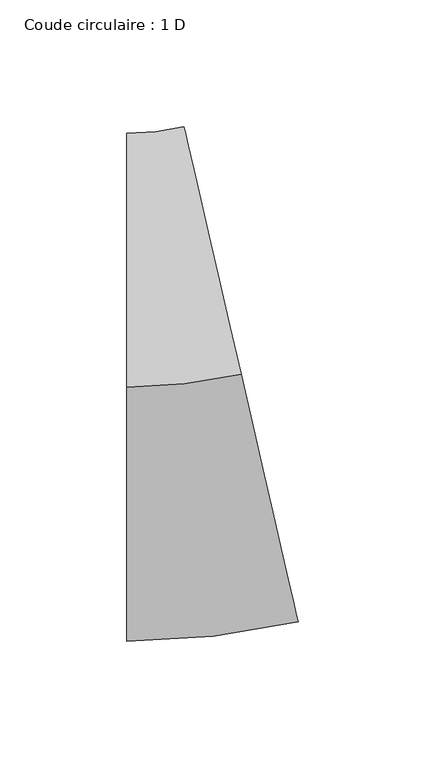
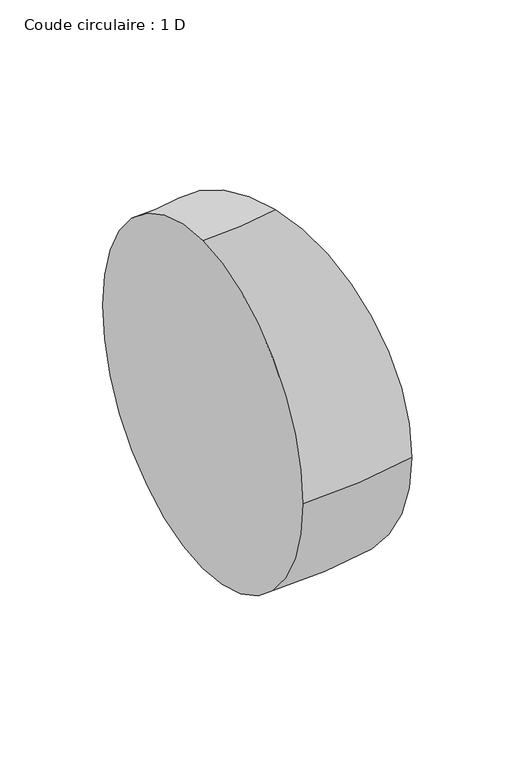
"""IFC4 building model written with IfcOpenShell, lengths in millimetres: duct fitting geometry, Coude circulaire : 1 D."""

from ifc_helpers import new_model, si_unit, point, frame, origin, place, context, project, spatial, circle_curve, ellipse_curve, trimmed, source, transform, mapped, element, save
from ifc_brep_helpers import plane_surface, revolved_surface, advanced_brep


def coude_circulaire_1_d_68859bf6(model_context):
    return source(origin(), model_context, "Body", "AdvancedBrep", [
        advanced_brep(
        [(-22.7728702, 0.0, 100.0), (-22.7728702, 100.0, 0.0), (-22.7728702, 0.0, -100.0), (-22.7728702, -100.0, 0.0), (22.1899235, 5.1196593, 100.0), (44.6713203, -92.320511, 0.0), (22.1899235, 5.1196593, -100.0), (-0.2914733, 102.5598297, 0.0)],
        [
            (0, 1, circle_curve(frame((-22.7728702, 0.0, 0.0), z_axis=(-1.0, 0.0, 0.0), x_axis=(0.0, 1.0, 0.0)), 100.0)),
            (1, 2, circle_curve(frame((-22.7728702, 0.0, 0.0), z_axis=(-1.0, 0.0, 0.0), x_axis=(0.0, 1.0, 0.0)), 100.0)),
            (2, 3, circle_curve(frame((-22.7728702, 0.0, 0.0), z_axis=(-1.0, 0.0, 0.0), x_axis=(0.0, 1.0, 0.0)), 100.0)),
            (3, 0, circle_curve(frame((-22.7728702, 0.0, 0.0), z_axis=(-1.0, 0.0, 0.0), x_axis=(0.0, 1.0, 0.0)), 100.0)),
            (4, 5, circle_curve(frame((22.1899235, 5.1196593, 0.0), z_axis=(0.9744017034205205, 0.22481396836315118, 0.0), x_axis=(-0.22481396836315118, 0.9744017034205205, 0.0)), 100.0)),
            (5, 6, circle_curve(frame((22.1899235, 5.1196593, 0.0), z_axis=(0.9744017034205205, 0.22481396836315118, 0.0), x_axis=(-0.22481396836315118, 0.9744017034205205, 0.0)), 100.0)),
            (6, 7, circle_curve(frame((22.1899235, 5.1196593, 0.0), z_axis=(0.9744017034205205, 0.22481396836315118, 0.0), x_axis=(-0.22481396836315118, 0.9744017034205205, 0.0)), 100.0)),
            (7, 4, circle_curve(frame((22.1899235, 5.1196593, 0.0), z_axis=(0.9744017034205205, 0.22481396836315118, 0.0), x_axis=(-0.22481396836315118, 0.9744017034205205, 0.0)), 100.0)),
            (7, 1, circle_curve(frame((-22.7728702, 200.0, 0.0), z_axis=(0.0, 0.0, -1.0), x_axis=(0.0, -1.0, 0.0)), 100.0)),
            (0, 4, circle_curve(frame((-22.7728702, 200.0, 100.0), z_axis=(0.0, 0.0, 1.0), x_axis=(0.0, -1.0, 0.0)), 200.0)),
            (6, 2, circle_curve(frame((-22.7728702, 200.0, -100.0), z_axis=(0.0, 0.0, -1.0), x_axis=(0.0, -1.0, 0.0)), 200.0)),
            (5, 3, circle_curve(frame((-22.7728702, 200.0, 0.0), z_axis=(0.0, 0.0, -1.0), x_axis=(0.0, -1.0, 0.0)), 300.0)),
        ],
        [
            plane_surface(frame((-22.7728702, 0.0, 0.0), z_axis=(-1.0, 0.0, 0.0), x_axis=(0.0, 0.0, 1.0))),
            plane_surface(frame((22.1899235, 5.1196593, 0.0), z_axis=(0.9744017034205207, 0.2248139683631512, 0.0), x_axis=(0.0, 0.0, 1.0))),
            revolved_surface(trimmed(ellipse_curve(frame((-22.7728702, 0.0, 0.0), z_axis=(-1.0, 0.0, 0.0), x_axis=(0.0, 1.0, 0.0)), 100.0, 100.0), [point((-22.7728702, 0.0, 100.0))], [point((-22.7728702, 100.0, 0.0))], True, "CARTESIAN"), (-22.7728702, 200.0, 0.0), (0.0, 0.0, 1.0)),
            revolved_surface(trimmed(ellipse_curve(frame((-22.7728702, 0.0, 0.0), z_axis=(-1.0, 0.0, 0.0), x_axis=(0.0, 1.0, 0.0)), 100.0, 100.0), [point((-22.7728702, 100.0, 0.0))], [point((-22.7728702, 0.0, -100.0))], True, "CARTESIAN"), (-22.7728702, 200.0, 0.0), (0.0, 0.0, 1.0)),
            revolved_surface(trimmed(ellipse_curve(frame((-22.7728702, 0.0, 0.0), z_axis=(-1.0, 0.0, 0.0), x_axis=(0.0, 1.0, 0.0)), 100.0, 100.0), [point((-22.7728702, 0.0, -100.0))], [point((-22.7728702, -100.0, 0.0))], True, "CARTESIAN"), (-22.7728702, 200.0, 0.0), (0.0, 0.0, 1.0)),
            revolved_surface(trimmed(ellipse_curve(frame((-22.7728702, 0.0, 0.0), z_axis=(-1.0, 0.0, 0.0), x_axis=(0.0, 1.0, 0.0)), 100.0, 100.0), [point((-22.7728702, -100.0, 0.0))], [point((-22.7728702, 0.0, 100.0))], True, "CARTESIAN"), (-22.7728702, 200.0, 0.0), (0.0, 0.0, 1.0)),
        ],
        [
            (0, [[1, 2, 3, 4]]),
            (1, [[5, 6, 7, 8]]),
            (2, [[9, -1, 10, -8]]),
            (3, [[11, -2, -9, -7]]),
            (4, [[12, -3, -11, -6]]),
            (5, [[-10, -4, -12, -5]]),
        ],
    ),
    ])


if __name__ == "__main__":
    model = new_model("IFC4")
    model_context = context("Model", 3, world=origin())
    ifc_project = project(units=[si_unit("LENGTHUNIT", "METRE", prefix="MILLI")], contexts=[model_context])
    site = spatial("IfcSite", under=ifc_project)
    building = spatial("IfcBuilding", under=site)
    placement = place(None, origin())
    coude_circulaire_1_d_shape = coude_circulaire_1_d_68859bf6(model_context)
    element("IfcDuctFitting", 1, ObjectType="Coude circulaire : 1 D", at=placement, inside=building, context=model_context, shape_type="MappedRepresentation", body=[
        mapped(coude_circulaire_1_d_shape, transform((0.0, 0.0, 0.0), x_axis=(1.0, 0.0, 0.0), y_axis=(0.0, 1.0, 0.0), z_axis=(0.0, 0.0, 1.0))),
    ])
    save(model, "model.ifc")
